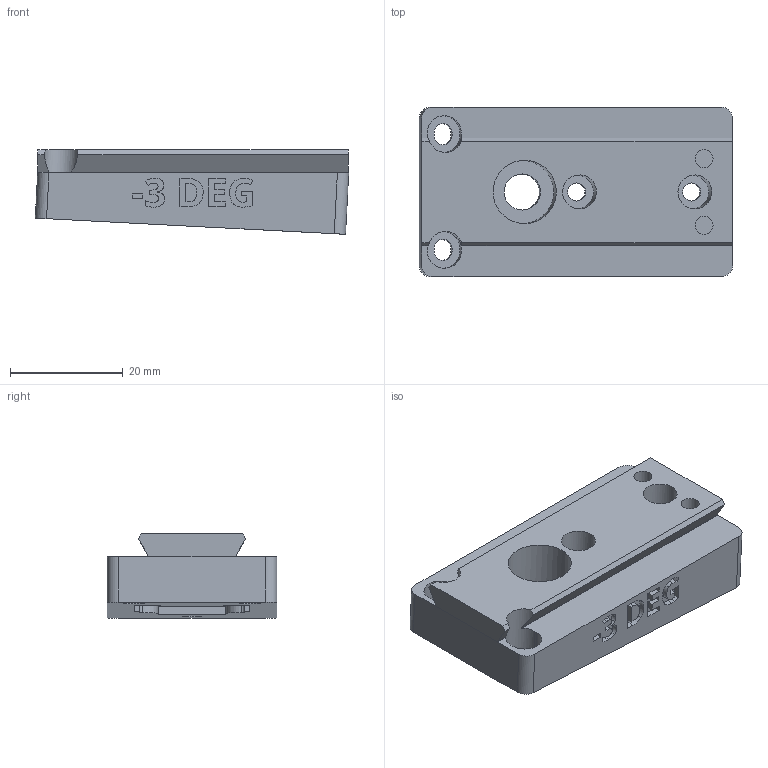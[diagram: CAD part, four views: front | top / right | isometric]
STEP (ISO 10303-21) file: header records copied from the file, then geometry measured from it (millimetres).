
FILE_DESCRIPTION(/* description */ ('STEP AP242 Edition 2','CAx-IF Rec.Pracs.---Representation and Presentation of Product Manufacturing Information (PMI)---4.0---2014-10-13','CAx-IF Rec.Pracs.---3D Tessellated Geometry---0.4---2014-09-14','2;1','CAx-IF Rec.Pracs.---User Defined Attributes---1.5---2016-08-15'),/* implementation_level */ '2;1');
FILE_NAME(/* name */ 'Camera Wedges - CAMERA MOUNTING WEDGE, NEG, -3 DEG',/* time_stamp */ '2026-08-11T00:07:46Z',/* author */ (''),/* organization */ (''),/* preprocessor_version */ 'ST-DEVELOPER v20',/* originating_system */ 'ONSHAPE BY PTC INC, 1.219',/* authorisation */ ' ');
FILE_SCHEMA (('AP242_MANAGED_MODEL_BASED_3D_ENGINEERING_MIM_LF { 1 0 10303 442 3 1 4 }'));
Length unit declared in the file: metre
Products named in the file (1): CAMERA MOUNTING WEDGE, NEG, -3 DEG
Bounding box: 55.5 x 30 x 14.99 mm (x, y, z)
Volume: 16515 mm3; surface area: 7034.3 mm2
Topology: 1 solids, 1 shells, 237 faces, 649 edges, 432 vertices
Faces by surface type: plane 131, bspline 64, cylinder 42
Full cylindrical faces by diameter (mm): 3.2 x4, 6 x2, 6.4 x1, 11.2 x1
Entity records: 7701 total; most frequent: CARTESIAN_POINT 2015, ORIENTED_EDGE 1282, DIRECTION 957, EDGE_CURVE 641, VERTEX_POINT 432, LINE 417, VECTOR 417, EDGE_LOOP 273
